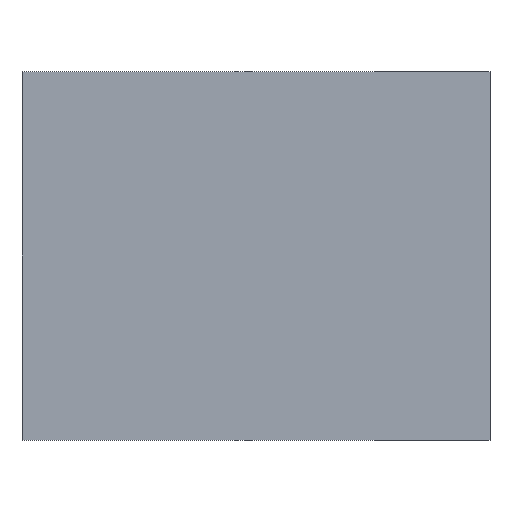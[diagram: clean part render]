
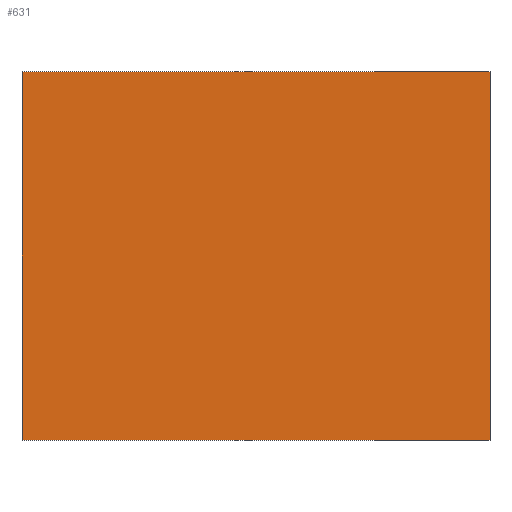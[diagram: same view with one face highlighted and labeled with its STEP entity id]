
A CAD part, left-side view. The second image highlights one B-rep face of the part: STEP entity #631.
In plain terms, the highlighted planar face has unit normal (-1, 0, 0).
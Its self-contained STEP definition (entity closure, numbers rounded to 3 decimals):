
#58 = VECTOR ( 'NONE', #152, 1000. ) ;
#59 = VERTEX_POINT ( 'NONE', #600 ) ;
#60 = VERTEX_POINT ( 'NONE', #548 ) ;
#84 = VERTEX_POINT ( 'NONE', #671 ) ;
#95 = CARTESIAN_POINT ( 'NONE',  ( -6.6, 16.5, 6.5 ) ) ;
#97 = DIRECTION ( 'NONE',  ( 0., 1., 0. ) ) ;
#134 = FACE_OUTER_BOUND ( 'NONE', #526, .T. ) ;
#141 = ORIENTED_EDGE ( 'NONE', *, *, #361, .T. ) ;
#152 = DIRECTION ( 'NONE',  ( 0., 0., -1. ) ) ;
#160 = VECTOR ( 'NONE', #364, 1000. ) ;
#178 = PLANE ( 'NONE',  #528 ) ;
#181 = CARTESIAN_POINT ( 'NONE',  ( -6.6, 0., 6.5 ) ) ;
#285 = VECTOR ( 'NONE', #312, 1000. ) ;
#292 = EDGE_CURVE ( 'NONE', #84, #620, #599, .T. ) ;
#310 = ORIENTED_EDGE ( 'NONE', *, *, #292, .T. ) ;
#312 = DIRECTION ( 'NONE',  ( 0., 1., 0. ) ) ;
#314 = LINE ( 'NONE', #588, #58 ) ;
#361 = EDGE_CURVE ( 'NONE', #620, #60, #431, .T. ) ;
#364 = DIRECTION ( 'NONE',  ( 0., 0., -1. ) ) ;
#398 = EDGE_CURVE ( 'NONE', #59, #60, #655, .T. ) ;
#427 = CARTESIAN_POINT ( 'NONE',  ( -6.6, 0., 6.5 ) ) ;
#431 = LINE ( 'NONE', #95, #160 ) ;
#482 = VECTOR ( 'NONE', #97, 1000. ) ;
#508 = DIRECTION ( 'NONE',  ( 0., 0., 1. ) ) ;
#510 = ORIENTED_EDGE ( 'NONE', *, *, #398, .F. ) ;
#526 = EDGE_LOOP ( 'NONE', ( #141, #510, #720, #310 ) ) ;
#528 = AXIS2_PLACEMENT_3D ( 'NONE', #181, #557, #508 ) ;
#531 = EDGE_CURVE ( 'NONE', #84, #59, #314, .T. ) ;
#548 = CARTESIAN_POINT ( 'NONE',  ( -6.6, 16.5, -6.5 ) ) ;
#557 = DIRECTION ( 'NONE',  ( -1., 0., 0. ) ) ;
#588 = CARTESIAN_POINT ( 'NONE',  ( -6.6, 0., 6.5 ) ) ;
#599 = LINE ( 'NONE', #427, #482 ) ;
#600 = CARTESIAN_POINT ( 'NONE',  ( -6.6, 0., -6.5 ) ) ;
#620 = VERTEX_POINT ( 'NONE', #660 ) ;
#631 = ADVANCED_FACE ( 'NONE', ( #134 ), #178, .T. ) ;
#646 = CARTESIAN_POINT ( 'NONE',  ( -6.6, 0., -6.5 ) ) ;
#655 = LINE ( 'NONE', #646, #285 ) ;
#660 = CARTESIAN_POINT ( 'NONE',  ( -6.6, 16.5, 6.5 ) ) ;
#671 = CARTESIAN_POINT ( 'NONE',  ( -6.6, 0., 6.5 ) ) ;
#720 = ORIENTED_EDGE ( 'NONE', *, *, #531, .F. ) ;
